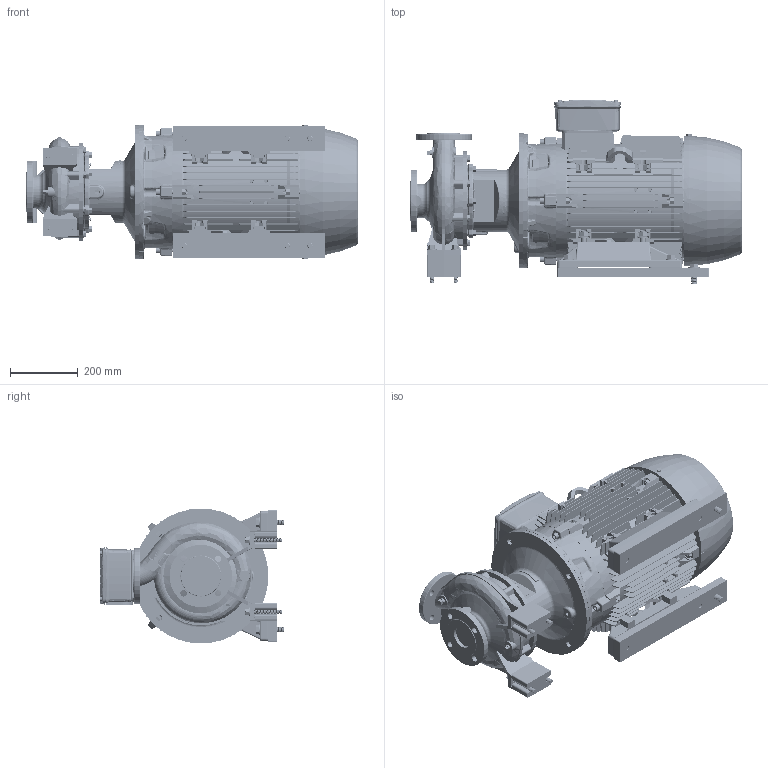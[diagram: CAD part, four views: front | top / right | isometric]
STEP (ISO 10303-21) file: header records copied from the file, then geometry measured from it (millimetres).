
FILE_DESCRIPTION (( 'STEP AP214' ), '1' );
FILE_NAME ('GSD2 50-200_30.0_(200ML)_W21.STEP', '2026-07-07T04:16:01', ( '' ), ( '' ), 'SwSTEP 2.0', 'SolidWorks 2024', '' );
FILE_SCHEMA (( 'AUTOMOTIVE_DESIGN' ));
Length unit declared in the file: millimetre
Products named in the file (12): GSD2  50-200_30.0_(200ML)_W21; Parametric Flat Washer_M12; Parametric Nut_M12; Parametric bolt_SFT-A359B; Parametric bolt and washer_SFT-A359B; 50-200-200M_L; CGS11-5301_2_3_4_5_CGS11-5304; 200M_L ALIE3_W21T_B35; Parametric Stud Bolt_SFSK-AB308; Parametric Flat Washer_M16; 80x25 - CGSDA-5271; CGS11-5301_2_3_4_5_CGS11-5305
Assembly tree (28 placements, depth 3):
  GSD2  50-200_30.0_(200ML)_W21
    50-200-200M_L
    CGS11-5301_2_3_4_5_CGS11-5305  x2
    CGS11-5301_2_3_4_5_CGS11-5304  x2
    80x25 - CGSDA-5271  x2
    Parametric Stud Bolt_SFSK-AB308  x4
    Parametric bolt and washer_SFT-A359B  x6
      Parametric bolt_SFT-A359B
      Parametric Flat Washer_M16
    Parametric Flat Washer_M12  x4
    Parametric Nut_M12  x4
    200M_L ALIE3_W21T_B35
Bounding box: 983.8 x 546.5 x 400 mm (x, y, z)
Volume: 79559922.3 mm3; surface area: 4249439.2 mm2
Topology: 62 solids, 72 shells, 8052 faces, 21038 edges, 13571 vertices
Faces by surface type: plane 4374, cylinder 1842, bspline 975, cone 622, torus 235, sphere 4
Entity records: 285914 total; most frequent: CARTESIAN_POINT 121394, ORIENTED_EDGE 36784, DIRECTION 29729, EDGE_CURVE 18392, VERTEX_POINT 11914, VECTOR 11175, LINE 11175, AXIS2_PLACEMENT_3D 9277
